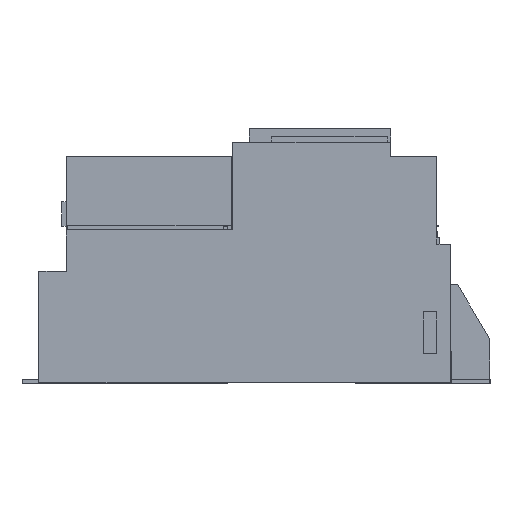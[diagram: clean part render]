
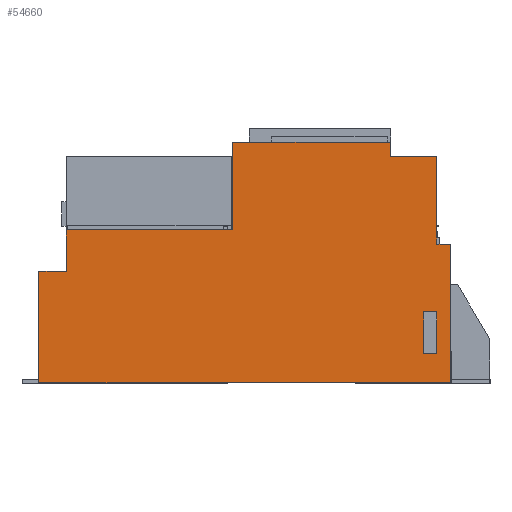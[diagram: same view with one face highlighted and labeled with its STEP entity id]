
A CAD part, left-side view. The second image highlights one B-rep face of the part: STEP entity #54660.
In plain terms, the highlighted planar face has unit normal (-1, 0, 0).
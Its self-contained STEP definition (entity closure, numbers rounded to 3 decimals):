
#12140=DIRECTION('',(0.,0.,-1.));
#12141=VECTOR('',#12140,81.05);
#12142=CARTESIAN_POINT('',(0.,300.,81.05));
#12143=LINE('',#12142,#12141);
#12314=DIRECTION('',(0.,1.,0.));
#12315=VECTOR('',#12314,20.);
#12316=CARTESIAN_POINT('',(0.,280.,81.05));
#12317=LINE('',#12316,#12315);
#13348=DIRECTION('',(0.,0.,-1.));
#13349=VECTOR('',#13348,30.126);
#13350=CARTESIAN_POINT('',(0.,280.,111.176));
#13351=LINE('',#13350,#13349);
#13412=DIRECTION('',(0.,1.,0.));
#13413=VECTOR('',#13412,121.2);
#13414=CARTESIAN_POINT('',(0.,158.8,111.176));
#13415=LINE('',#13414,#13413);
#15054=DIRECTION('',(0.,0.,1.));
#15055=VECTOR('',#15054,10.);
#15056=CARTESIAN_POINT('',(0.,43.8,165.));
#15057=LINE('',#15056,#15055);
#15075=DIRECTION('',(0.,1.,0.));
#15076=VECTOR('',#15075,33.8);
#15077=CARTESIAN_POINT('',(0.,10.,165.));
#15078=LINE('',#15077,#15076);
#15117=DIRECTION('',(0.,0.,1.));
#15118=VECTOR('',#15117,64.1);
#15119=CARTESIAN_POINT('',(0.,10.,100.9));
#15120=LINE('',#15119,#15118);
#16317=DIRECTION('',(0.,0.,1.));
#16318=VECTOR('',#16317,63.824);
#16319=CARTESIAN_POINT('',(0.,158.8,111.176));
#16320=LINE('',#16319,#16318);
#16324=DIRECTION('',(0.,-1.,0.));
#16325=VECTOR('',#16324,115.);
#16326=CARTESIAN_POINT('',(0.,158.8,175.));
#16327=LINE('',#16326,#16325);
#16331=DIRECTION('',(0.,-1.,0.));
#16332=VECTOR('',#16331,10.);
#16333=CARTESIAN_POINT('',(0.,10.,100.9));
#16334=LINE('',#16333,#16332);
#16338=DIRECTION('',(0.,0.,-1.));
#16339=VECTOR('',#16338,100.9);
#16340=CARTESIAN_POINT('',(0.,0.,100.9));
#16341=LINE('',#16340,#16339);
#16345=DIRECTION('',(0.,1.,0.));
#16346=VECTOR('',#16345,300.);
#16347=CARTESIAN_POINT('',(0.,0.,0.));
#16348=LINE('',#16347,#16346);
#16352=DIRECTION('',(0.,1.,0.));
#16353=VECTOR('',#16352,9.55);
#16354=CARTESIAN_POINT('',(0.,9.97,20.97));
#16355=LINE('',#16354,#16353);
#16366=DIRECTION('',(0.,0.,1.));
#16367=VECTOR('',#16366,30.55);
#16368=CARTESIAN_POINT('',(0.,19.52,20.97));
#16369=LINE('',#16368,#16367);
#16380=DIRECTION('',(0.,-1.,0.));
#16381=VECTOR('',#16380,9.55);
#16382=CARTESIAN_POINT('',(0.,19.52,51.52));
#16383=LINE('',#16382,#16381);
#16394=DIRECTION('',(0.,0.,-1.));
#16395=VECTOR('',#16394,30.55);
#16396=CARTESIAN_POINT('',(0.,9.97,51.52));
#16397=LINE('',#16396,#16395);
#34358=CARTESIAN_POINT('',(0.,43.8,165.));
#34359=VERTEX_POINT('',#34358);
#34360=CARTESIAN_POINT('',(0.,43.8,175.));
#34361=VERTEX_POINT('',#34360);
#34394=CARTESIAN_POINT('',(0.,158.8,175.));
#34395=VERTEX_POINT('',#34394);
#34811=CARTESIAN_POINT('',(0.,280.,111.176));
#34812=CARTESIAN_POINT('',(0.,280.,81.05));
#34813=VERTEX_POINT('',#34811);
#34814=VERTEX_POINT('',#34812);
#34815=CARTESIAN_POINT('',(0.,158.8,111.176));
#34816=VERTEX_POINT('',#34815);
#34817=CARTESIAN_POINT('',(0.,10.,165.));
#34818=VERTEX_POINT('',#34817);
#34819=CARTESIAN_POINT('',(0.,10.,100.9));
#34820=VERTEX_POINT('',#34819);
#34821=CARTESIAN_POINT('',(0.,0.,100.9));
#34822=VERTEX_POINT('',#34821);
#34823=CARTESIAN_POINT('',(0.,0.,0.));
#34824=VERTEX_POINT('',#34823);
#34825=CARTESIAN_POINT('',(0.,300.,0.));
#34826=VERTEX_POINT('',#34825);
#34827=CARTESIAN_POINT('',(0.,300.,81.05));
#34828=VERTEX_POINT('',#34827);
#34829=CARTESIAN_POINT('',(0.,9.97,20.97));
#34830=CARTESIAN_POINT('',(0.,19.52,20.97));
#34831=VERTEX_POINT('',#34829);
#34832=VERTEX_POINT('',#34830);
#34833=CARTESIAN_POINT('',(0.,9.97,51.52));
#34834=VERTEX_POINT('',#34833);
#34835=CARTESIAN_POINT('',(0.,19.52,51.52));
#34836=VERTEX_POINT('',#34835);
#54631=CARTESIAN_POINT('',(0.,300.,0.));
#54632=DIRECTION('',(-1.,0.,0.));
#54633=DIRECTION('',(0.,-1.,0.));
#54634=AXIS2_PLACEMENT_3D('',#54631,#54632,#54633);
#54635=PLANE('',#54634);
#54636=ORIENTED_EDGE('',*,*,#51952,.F.);
#54637=ORIENTED_EDGE('',*,*,#52013,.F.);
#54638=ORIENTED_EDGE('',*,*,#52228,.T.);
#54639=ORIENTED_EDGE('',*,*,#53226,.T.);
#54640=ORIENTED_EDGE('',*,*,#53486,.F.);
#54641=ORIENTED_EDGE('',*,*,#53500,.F.);
#54642=ORIENTED_EDGE('',*,*,#53530,.F.);
#54643=ORIENTED_EDGE('',*,*,#53644,.T.);
#54644=ORIENTED_EDGE('',*,*,#53580,.T.);
#54645=ORIENTED_EDGE('',*,*,#50696,.T.);
#54646=ORIENTED_EDGE('',*,*,#50856,.F.);
#54647=ORIENTED_EDGE('',*,*,#50955,.F.);
#54648=EDGE_LOOP('',(#54636,#54637,#54638,#54639,#54640,#54641,#54642,#54643,
#54644,#54645,#54646,#54647));
#54649=FACE_OUTER_BOUND('',#54648,.F.);
#54651=ORIENTED_EDGE('',*,*,#54650,.F.);
#54653=ORIENTED_EDGE('',*,*,#54652,.F.);
#54655=ORIENTED_EDGE('',*,*,#54654,.F.);
#54657=ORIENTED_EDGE('',*,*,#54656,.F.);
#54658=EDGE_LOOP('',(#54651,#54653,#54655,#54657));
#54659=FACE_BOUND('',#54658,.F.);
#50696=EDGE_CURVE('',#34824,#34826,#16348,.T.);
#50856=EDGE_CURVE('',#34828,#34826,#12143,.T.);
#50955=EDGE_CURVE('',#34814,#34828,#12317,.T.);
#51952=EDGE_CURVE('',#34813,#34814,#13351,.T.);
#52013=EDGE_CURVE('',#34816,#34813,#13415,.T.);
#52228=EDGE_CURVE('',#34816,#34395,#16320,.T.);
#53226=EDGE_CURVE('',#34395,#34361,#16327,.T.);
#53486=EDGE_CURVE('',#34359,#34361,#15057,.T.);
#53500=EDGE_CURVE('',#34818,#34359,#15078,.T.);
#53530=EDGE_CURVE('',#34820,#34818,#15120,.T.);
#53580=EDGE_CURVE('',#34822,#34824,#16341,.T.);
#53644=EDGE_CURVE('',#34820,#34822,#16334,.T.);
#54650=EDGE_CURVE('',#34831,#34832,#16355,.T.);
#54652=EDGE_CURVE('',#34834,#34831,#16397,.T.);
#54654=EDGE_CURVE('',#34836,#34834,#16383,.T.);
#54656=EDGE_CURVE('',#34832,#34836,#16369,.T.);
#54660=ADVANCED_FACE('',(#54649,#54659),#54635,.T.);
